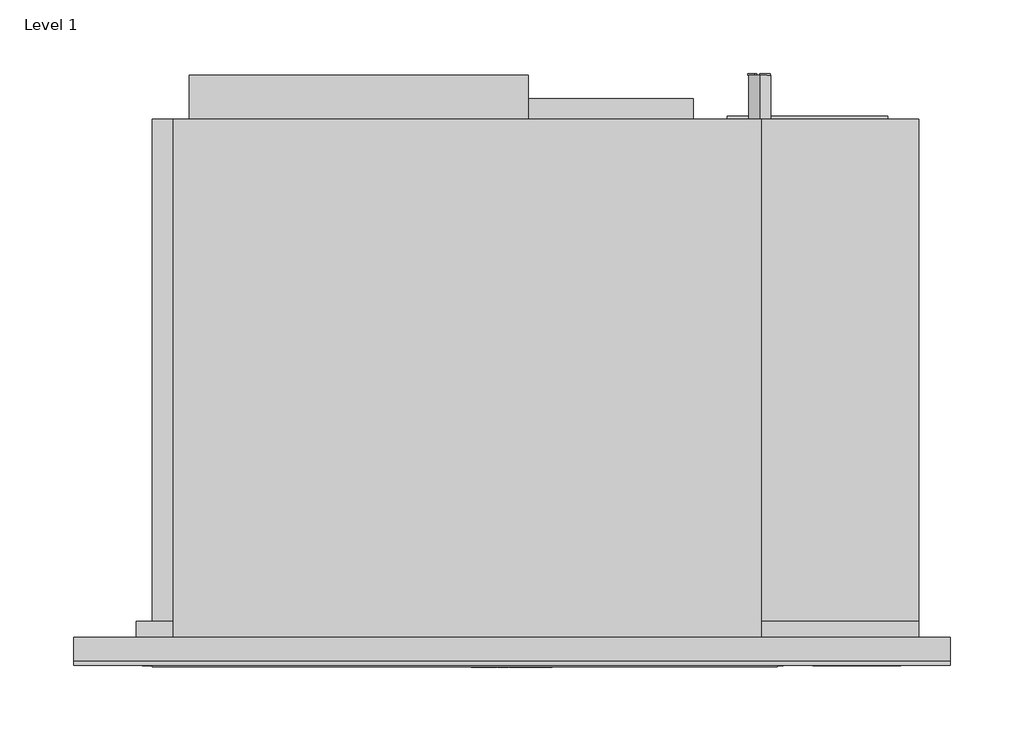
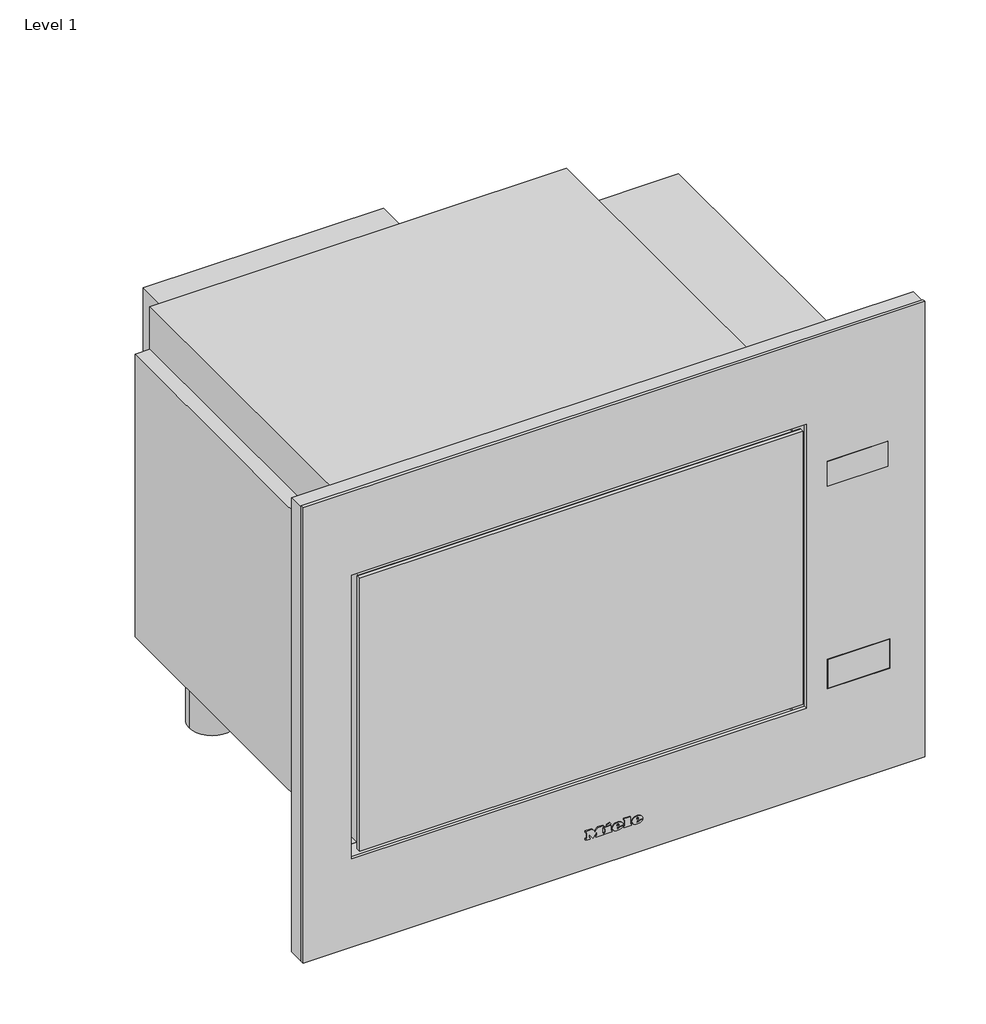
# One storey: 1 proxy.
"""IFC4 building model written with IfcOpenShell, lengths in millimetres."""

from ifc_helpers import new_model, si_unit, origin, place, context, project, spatial, transform, mapped, element, save
from components import specialty_equipment_8418b30c

model = new_model("IFC4")

# Units and contexts
model_context = context("Model", 3, world=origin())
ifc_project = project(units=[si_unit("LENGTHUNIT", "METRE", prefix="MILLI")], contexts=[model_context])

# Site, building, storey
site = spatial("IfcSite", under=ifc_project)
building = spatial("IfcBuilding", under=site)
storey = spatial("IfcBuildingStorey", under=building, Name="Level 1", Elevation=0.0)

# Proxy
placement = place(None, origin())
specialty_equipment_shape = specialty_equipment_8418b30c(model_context)
element("IfcBuildingElementProxy", 1, Name="11108900_A_M2240SC_OBSW : 24224020_A_11108900_M2240SC_OBSW", ObjectType="11108900_A_M2240SC_OBSW : 24224020_A_11108900_M2240SC_OBSW", at=placement, inside=storey, context=model_context, shape_type="MappedRepresentation", body=[
    mapped(specialty_equipment_shape, transform((0.0, 0.0, 0.0), x_axis=(1.0, 0.0, 0.0), y_axis=(0.0, 1.0, 0.0), z_axis=(0.0, 0.0, 1.0))),
])

save(model, "model.ifc")
